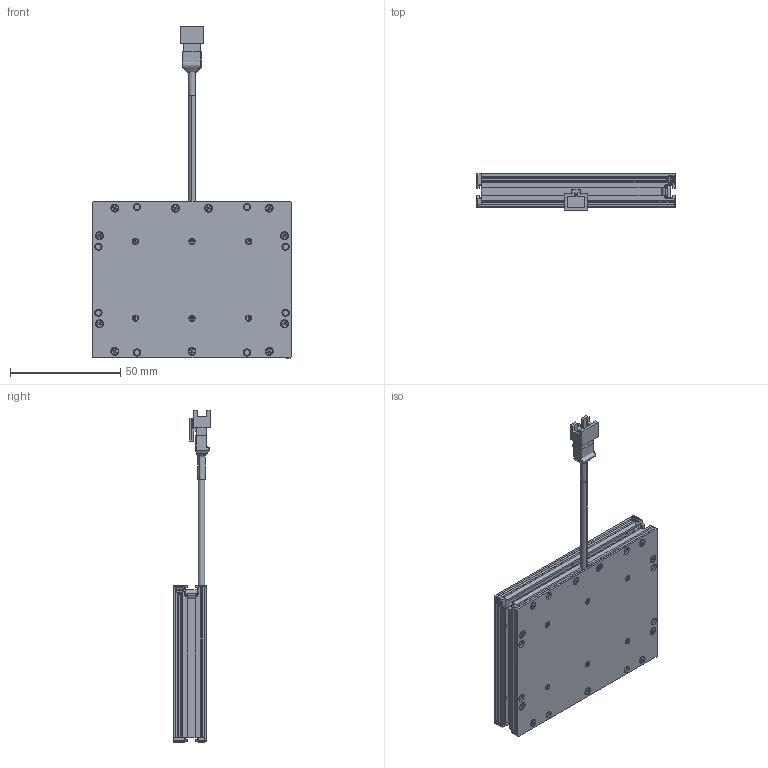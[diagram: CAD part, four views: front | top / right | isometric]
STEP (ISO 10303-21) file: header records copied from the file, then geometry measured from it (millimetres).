
FILE_DESCRIPTION (( 'STEP AP214' ), '1' );
FILE_NAME ('TMDF3003D101B_VDF-7758.STEP', '2023-05-02T01:08:41', ( '' ), ( '' ), 'SwSTEP 2.0', 'SolidWorks 2018', '' );
FILE_SCHEMA (( 'AUTOMOTIVE_DESIGN' ));
Length unit declared in the file: millimetre
Products named in the file (1): TMDF3003D101B_VDF-7758
Bounding box: 90 x 16.55 x 150.7 mm (x, y, z)
Surface area: 36208.9 mm2 (no closed solid volume)
Topology: 0 solids, 42 shells, 747 faces, 2208 edges, 1508 vertices
Faces by surface type: plane 492, cylinder 187, cone 66, bspline 2
Entity records: 34405 total; most frequent: CARTESIAN_POINT 6004, DIRECTION 4142, ORIENTED_EDGE 3942, EDGE_CURVE 2208, LINE 1598, VECTOR 1598, VERTEX_POINT 1508, AXIS2_PLACEMENT_3D 1272
